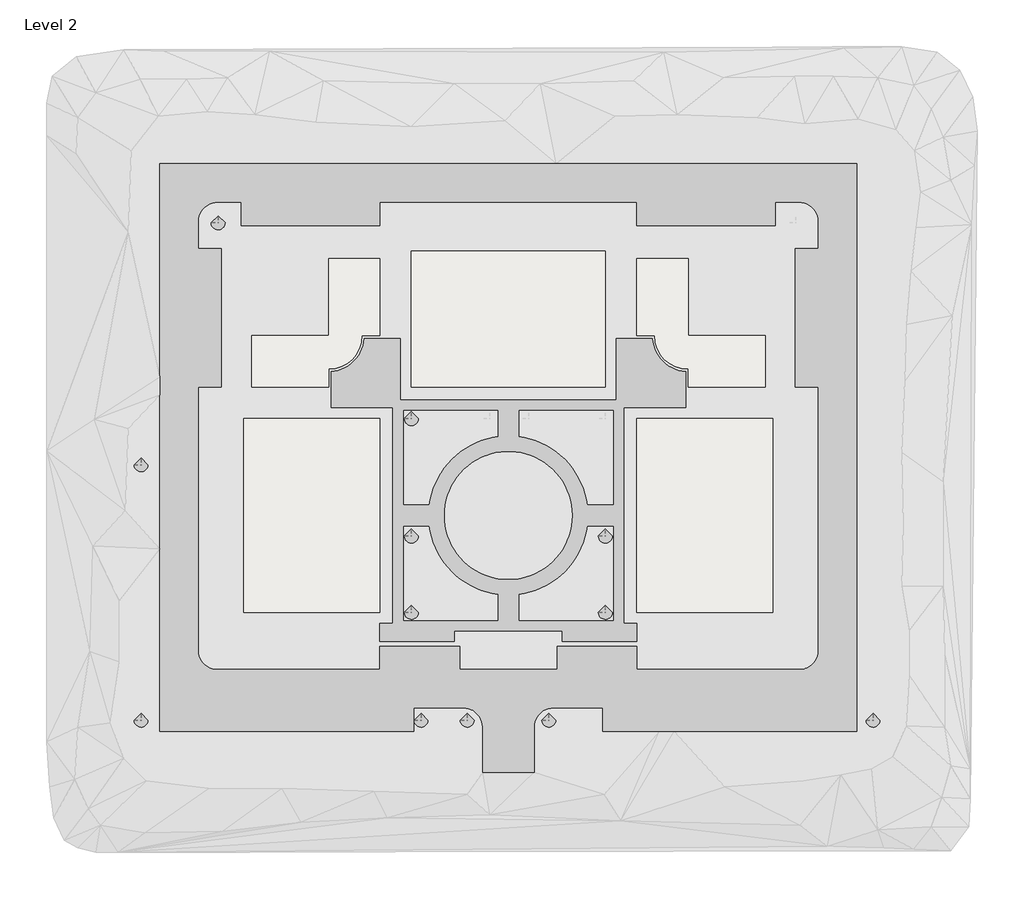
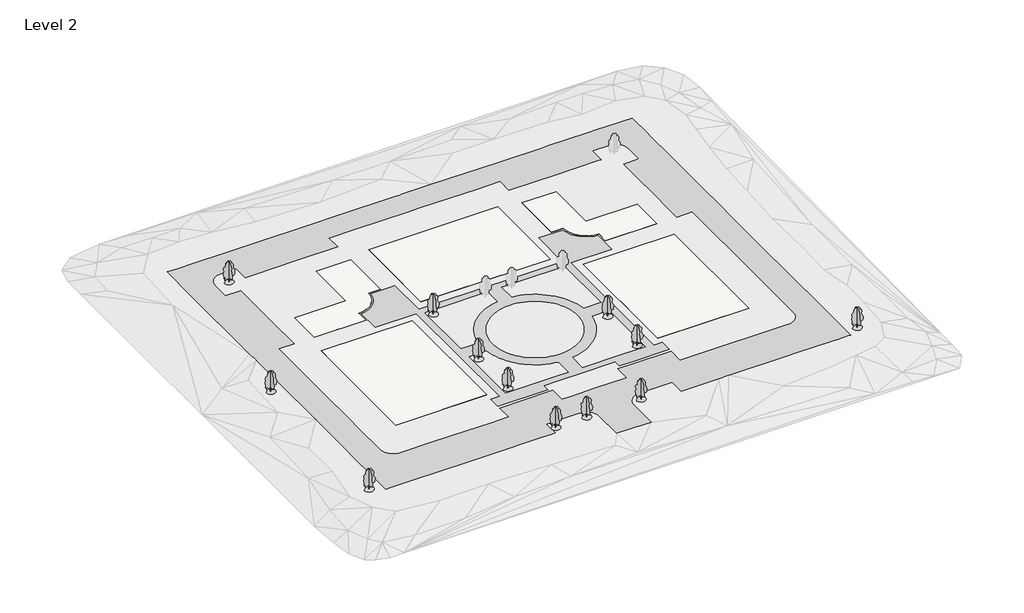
# One storey, part 1 of 2: 12 geographic elements, 5 slabs, 2 proxies.
"""IFC4 building model written with IfcOpenShell, lengths in millimetres."""

from ifc_helpers import new_model, si_unit, point, frame, frame_2d, origin, place, context, project, spatial, polyline, circle_curve, trimmed, segment, composite_curve, outline, extrude, triangles, transform, mapped, element, save
from components import rpc_tree_deciduous_red_ash_25_14781bec

model = new_model("IFC4")

# Units and contexts
model_context = context("Model", 3, world=origin())
ifc_project = project(units=[si_unit("LENGTHUNIT", "METRE", prefix="MILLI")], contexts=[model_context])

# Site, building, storey
site = spatial("IfcSite", under=ifc_project)
building = spatial("IfcBuilding", under=site)
storey = spatial("IfcBuildingStorey", under=building, Name="Level 2", Elevation=3047.9999999)

# Proxies
placement = place(None, origin())
element("IfcBuildingElementProxy", 1, Name="Building Element Proxy", at=placement, inside=storey, context=model_context, shape_type="Tessellation", body=[
    triangles([(-96458.3541504, -141259.5265137, 3048.0), (-96458.3541504, -151927.5265137, 3048.0), (-90362.3541504, -151927.5265137, 3048.0), (-84266.3541504, -151927.5265137, 3048.0), (-84266.3541504, -141259.5265137, 3048.0), (-84219.8174561, -140608.8592529, 3048.0), (-84081.1561523, -139971.4376953, 3048.0), (-83853.1979736, -139360.2470947, 3048.0), (-83540.5658936, -138787.7145996, 3048.0), (-83149.640918, -138265.4953125, 3048.0), (-82688.3853516, -137804.2304443, 3048.0), (-82166.1660645, -137413.3147705, 3048.0), (-81593.6335693, -137100.6826904, 3048.0), (-80982.4429688, -136872.7245117, 3048.0), (-80345.0214111, -136734.0539063, 3048.0), (-79694.3541504, -136687.5265137, 3048.0), (-70630.3399658, -136687.5265137, 3048.0), (-67959.5588013, -136687.5265137, 3048.0), (-67959.5588013, -142173.9265137, 3048.0), (-54593.6723145, -142173.9265137, 3048.0), (-50988.4086548, -142173.9265137, 3048.0), (-30015.5818359, -142173.9265137, 3048.0), (-27380.2333923, -142173.9265137, 3048.0), (-14368.7717834, -142173.9265137, 3048.0), (-12021.3371613, -142173.9265137, 3048.0), (-8520.228772, -142173.9265137, 3048.0), (-7609.1582199, -142173.9265137, 3048.0), (-7609.1582199, -141262.8472412, 3048.0), (-7609.1582199, -135897.4445068, 3048.0), (-7609.1582199, -128757.108252, 3048.0), (-7609.1582199, -119744.5513916, 3048.0), (-7609.1582199, -109311.1696289, 3048.0), (-7609.1582199, -103111.0178467, 3048.0), (-7609.1582199, -88141.7269043, 3048.0), (-7609.1582199, -67102.3320557, 3048.0), (-7609.1582199, -63543.7213623, 3048.0), (-7609.1582199, -48692.6557617, 3048.0), (-7609.1582199, -45786.2285156, 3048.0), (-7609.1582199, -34925.2565735, 3048.0), (-7609.1582199, -29394.9894836, 3048.0), (-7609.1582199, -20175.2708496, 3048.0), (-7609.1582199, -15160.5374084, 3048.0), (-7609.1582199, -9469.011557, 3048.0), (-7609.1582199, -7452.3218628, 3048.0), (-9769.8966797, -7452.3218628, 3048.0), (-13137.2725342, -7452.3218628, 3048.0), (-20332.1054626, -7452.3218628, 3048.0), (-23395.2487244, -7452.3218628, 3048.0), (-37615.0575073, -7452.3218628, 3048.0), (-40375.0099731, -7452.3218628, 3048.0), (-52788.1732178, -7452.3218628, 3048.0), (-55510.2210205, -7452.3218628, 3048.0), (-79028.6831543, -7452.3218628, 3048.0), (-89744.5965088, -7452.3218628, 3048.0), (-90362.3541504, -7452.3218628, 3048.0), (-91818.4420166, -7452.3218628, 3048.0), (-112747.4808105, -7452.3218628, 3048.0), (-121728.1977539, -7452.3218628, 3048.0), (-142112.3953857, -7452.3218628, 3048.0), (-152868.4644287, -7452.3218628, 3048.0), (-163060.4655762, -7452.3218628, 3048.0), (-169916.8098633, -7452.3218628, 3048.0), (-173115.5541504, -7452.3218628, 3048.0), (-173115.5541504, -12340.9792786, 3048.0), (-173115.5541504, -16797.6432953, 3048.0), (-173115.5541504, -19343.470459, 3048.0), (-173115.5541504, -58140.023291, 3048.0), (-173115.5541504, -62355.6543457, 3048.0), (-173115.5541504, -78335.3859375, 3048.0), (-173115.5541504, -96485.831543, 3048.0), (-173115.5541504, -98940.6863525, 3048.0), (-173115.5541504, -118406.8004883, 3048.0), (-173115.5541504, -122301.5302002, 3048.0), (-173115.5541504, -133177.6942383, 3048.0), (-173115.5541504, -139265.5924072, 3048.0), (-173115.5541504, -142173.9265137, 3048.0), (-171062.6189941, -142173.9265137, 3048.0), (-161579.2164551, -142173.9265137, 3048.0), (-155924.3616211, -142173.9265137, 3048.0), (-141364.1619873, -142173.9265137, 3048.0), (-134914.7603027, -142173.9265137, 3048.0), (-118098.4844238, -142173.9265137, 3048.0), (-113948.1331055, -142173.9265137, 3048.0), (-112765.1541504, -142173.9265137, 3048.0), (-112765.1541504, -136687.5265137, 3048.0), (-101809.9809814, -136687.5265137, 3048.0), (-101030.3541504, -136687.5265137, 3048.0), (-100379.6961914, -136734.0539063, 3048.0), (-99742.2746338, -136872.7245117, 3048.0), (-99131.0840332, -137100.6826904, 3048.0), (-98978.0329102, -137184.2496826, 3048.0), (-98558.5515381, -137413.3147705, 3048.0), (-98036.332251, -137804.2304443, 3048.0), (-97575.0673828, -138265.4953125, 3048.0), (-97184.1424072, -138787.7145996, 3048.0), (-96871.5196289, -139360.2470947, 3048.0), (-96643.5521484, -139971.4376953, 3048.0), (-96504.8908447, -140608.8592529, 3048.0), (-120842.3541504, -16596.3218628, 3048.0), (-111973.5931641, -16596.3218628, 3048.0), (-92323.0716797, -16596.3218628, 3048.0), (-88392.1767334, -16596.3218628, 3048.0), (-68080.4816528, -16596.3218628, 3048.0), (-59882.3588013, -16596.3218628, 3048.0), (-59882.3588013, -22082.7218628, 3048.0), (-43016.1185303, -22082.7218628, 3048.0), (-36760.488739, -22082.7218628, 3048.0), (-27869.6965393, -22082.7218628, 3048.0), (-26963.9588013, -22082.7218628, 3048.0), (-26963.9588013, -17204.3033569, 3048.0), (-26963.9588013, -16596.3218628, 3048.0), (-21325.1588013, -16596.3218628, 3048.0), (-20674.493866, -16642.8585571, 3048.0), (-20037.0769592, -16781.5198608, 3048.0), (-19425.880545, -17009.4838531, 3048.0), (-18853.3480499, -17322.1112823, 3048.0), (-18331.1345764, -17713.0350952, 3048.0), (-17869.870871, -18174.2988007, 3048.0), (-17478.9470581, -18696.5122742, 3048.0), (-17166.3207916, -19269.0447693, 3048.0), (-16938.3556366, -19880.2400208, 3048.0), (-16799.6943329, -20517.6592529, 3048.0), (-16753.1576385, -21168.3218628, 3048.0), (-16753.1576385, -26553.1513184, 3048.0), (-16753.1576385, -27569.1218628, 3048.0), (-22239.5588013, -27569.1218628, 3048.0), (-22239.5588013, -28669.615155, 3048.0), (-22239.5588013, -35337.7267456, 3048.0), (-22239.5588013, -46411.753125, 3048.0), (-22239.5588013, -54882.9383789, 3048.0), (-22239.5588013, -60487.5218628, 3048.0), (-16753.1576385, -60487.5218628, 3048.0), (-16753.1576385, -98657.3269043, 3048.0), (-16753.1576385, -111345.1664063, 3048.0), (-16753.1576385, -122722.3696289, 3048.0), (-16753.1576385, -122971.5265137, 3048.0), (-16799.6943329, -123622.1844727, 3048.0), (-16938.3556366, -124259.6060303, 3048.0), (-17166.3207916, -124870.7966309, 3048.0), (-17478.9470581, -125443.329126, 3048.0), (-17869.870871, -125965.5484131, 3048.0), (-18331.1345764, -126426.8132813, 3048.0), (-18853.3480499, -126817.7289551, 3048.0), (-19425.880545, -127130.3610352, 3048.0), (-19872.0754028, -127296.7787842, 3048.0), (-20037.0769592, -127358.3192139, 3048.0), (-20674.493866, -127496.9898193, 3048.0), (-21325.1588013, -127543.5265137, 3048.0), (-34741.3910522, -127543.5265137, 3048.0), (-41871.5883911, -127543.5265137, 3048.0), (-59882.3588013, -127543.5265137, 3048.0), (-59882.3588013, -122057.1265137, 3048.0), (-72794.2171875, -122057.1265137, 3048.0), (-78779.9541504, -122057.1265137, 3048.0), (-78779.9541504, -127543.5265137, 3048.0), (-90362.3541504, -127543.5265137, 3048.0), (-98445.9909668, -127543.5265137, 3048.0), (-101944.7541504, -127543.5265137, 3048.0), (-101944.7541504, -122057.1265137, 3048.0), (-103048.1844727, -122057.1265137, 3048.0), (-120842.3541504, -122057.1265137, 3048.0), (-120842.3541504, -127543.5265137, 3048.0), (-127508.0124023, -127543.5265137, 3048.0), (-135716.2462646, -127543.5265137, 3048.0), (-147842.1479736, -127543.5265137, 3048.0), (-159399.5541504, -127543.5265137, 3048.0), (-160050.2307129, -127496.9898193, 3048.0), (-160687.6429688, -127358.3192139, 3048.0), (-161298.8428711, -127130.3610352, 3048.0), (-161871.3660645, -126817.7289551, 3048.0), (-162393.5853516, -126426.8132813, 3048.0), (-162854.840918, -125965.5484131, 3048.0), (-163245.7751953, -125443.329126, 3048.0), (-163558.3886719, -124870.7966309, 3048.0), (-163786.3561523, -124259.6060303, 3048.0), (-163925.0267578, -123622.1844727, 3048.0), (-163971.5541504, -122971.5265137, 3048.0), (-163971.5541504, -109289.2825928, 3048.0), (-163971.5541504, -104079.330835, 3048.0), (-163971.5541504, -88201.2767578, 3048.0), (-163971.5541504, -60487.5218628, 3048.0), (-158485.1541504, -60487.5218628, 3048.0), (-158485.1541504, -46724.2270752, 3048.0), (-158485.1541504, -34220.483313, 3048.0), (-158485.1541504, -27569.1218628, 3048.0), (-163971.5541504, -27569.1218628, 3048.0), (-163971.5541504, -21168.3218628, 3048.0), (-163925.0267578, -20517.6592529, 3048.0), (-163786.3561523, -19880.2400208, 3048.0), (-163558.3886719, -19269.0447693, 3048.0), (-163245.7751953, -18696.5122742, 3048.0), (-162854.840918, -18174.2988007, 3048.0), (-162393.5853516, -17713.0350952, 3048.0), (-161871.3660645, -17322.1112823, 3048.0), (-161298.8428711, -17009.4838531, 3048.0), (-160687.6429688, -16781.5198608, 3048.0), (-160050.2307129, -16642.8585571, 3048.0), (-159399.5541504, -16596.3218628, 3048.0), (-153760.7541504, -16596.3218628, 3048.0), (-153760.7541504, -22082.7218628, 3048.0), (-151061.086377, -22082.7218628, 3048.0), (-135421.6781982, -22082.7218628, 3048.0), (-120842.3541504, -22082.7218628, 3048.0)], [[75, 76, 77], [75, 77, 78], [78, 74, 75], [169, 74, 78], [167, 78, 166], [78, 79, 166], [165, 79, 80], [164, 80, 81], [164, 165, 80], [163, 164, 81], [163, 82, 162], [79, 165, 166], [174, 175, 73], [174, 73, 74], [73, 176, 177], [176, 73, 175], [72, 73, 177], [74, 173, 174], [167, 168, 78], [173, 74, 172], [171, 74, 170], [74, 171, 172], [168, 169, 78], [74, 169, 170], [163, 81, 82], [85, 83, 84], [85, 82, 83], [9, 156, 95], [156, 94, 95], [1, 2, 3], [5, 3, 4], [1, 3, 5], [6, 98, 1], [7, 97, 98], [97, 8, 96], [95, 96, 9], [85, 86, 158], [162, 160, 161], [158, 86, 87], [158, 87, 88], [158, 160, 162], [88, 157, 158], [162, 85, 158], [92, 93, 157], [91, 92, 157], [89, 90, 157], [157, 90, 91], [93, 156, 157], [89, 157, 88], [93, 94, 156], [85, 162, 82], [71, 72, 178], [70, 71, 179], [68, 69, 181], [67, 68, 181], [70, 180, 69], [179, 180, 70], [69, 180, 181], [67, 186, 66], [186, 67, 183], [183, 67, 181], [178, 179, 71], [177, 178, 72], [66, 186, 187], [189, 65, 66], [188, 66, 187], [64, 65, 192], [63, 64, 62], [193, 62, 64], [188, 189, 66], [192, 65, 191], [191, 65, 190], [62, 193, 61], [64, 192, 193], [193, 194, 61], [61, 194, 195], [190, 65, 189], [186, 184, 185], [198, 61, 197], [197, 61, 196], [186, 183, 184], [159, 160, 158], [59, 201, 202], [199, 200, 201], [181, 182, 183], [99, 202, 203], [99, 58, 202], [201, 59, 199], [198, 199, 60], [59, 60, 199], [59, 202, 58], [99, 57, 58], [60, 61, 198], [56, 100, 101], [55, 101, 102], [56, 57, 100], [54, 55, 102], [56, 101, 55], [102, 53, 54], [100, 57, 99], [196, 61, 195], [6, 1, 5], [97, 7, 8], [156, 10, 11], [10, 156, 9], [9, 96, 8], [20, 18, 19], [21, 151, 20], [13, 156, 12], [21, 22, 150], [12, 156, 11], [14, 15, 155], [13, 14, 155], [155, 16, 17], [154, 155, 153], [155, 15, 16], [156, 13, 155], [153, 17, 18], [150, 22, 149], [21, 150, 151], [152, 153, 151], [151, 18, 20], [153, 18, 151], [17, 153, 155], [22, 23, 149], [148, 24, 147], [146, 147, 24], [24, 145, 146], [24, 144, 145], [148, 23, 24], [28, 25, 26], [28, 26, 27], [29, 144, 24], [143, 144, 29], [29, 24, 25], [25, 28, 29], [142, 29, 30], [143, 29, 142], [142, 30, 141], [140, 30, 139], [139, 30, 138], [30, 140, 141], [136, 137, 31], [135, 136, 31], [33, 134, 32], [31, 32, 134], [134, 135, 31], [138, 30, 137], [137, 30, 31], [148, 149, 23], [134, 33, 133], [50, 106, 107], [104, 105, 106], [108, 109, 110], [108, 110, 107], [110, 111, 107], [128, 129, 38], [125, 127, 128], [127, 125, 126], [37, 129, 130], [52, 53, 103], [52, 103, 104], [51, 52, 104], [51, 104, 106], [50, 51, 106], [107, 111, 49], [113, 114, 47], [49, 111, 48], [112, 47, 48], [47, 112, 113], [111, 112, 48], [114, 115, 47], [49, 50, 107], [130, 131, 132], [53, 102, 103], [39, 128, 38], [124, 125, 40], [130, 132, 37], [124, 41, 123], [41, 122, 123], [132, 34, 35], [35, 36, 132], [38, 129, 37], [39, 40, 125], [39, 125, 128], [36, 37, 132], [133, 33, 34], [40, 41, 124], [119, 120, 42], [118, 119, 42], [116, 117, 46], [115, 116, 46], [118, 46, 117], [41, 42, 120], [41, 121, 122], [42, 46, 118], [45, 46, 43], [43, 44, 45], [46, 42, 43], [120, 121, 41], [115, 46, 47], [133, 34, 132], [7, 98, 6]], closed=False),
])
element("IfcBuildingElementProxy", 2, Name="Building Element Proxy", at=placement, inside=storey, context=model_context, shape_type="Tessellation", body=[
    triangles([(-115965.5541504, -63535.5218628, 3048.0), (-115965.5541504, -48905.1218628, 3048.0), (-124521.7574707, -48905.1218628, 3048.0), (-124628.057959, -49768.622644, 3048.0), (-124821.7112549, -50616.8173828, 3048.0), (-125100.7174805, -51440.8880127, 3048.0), (-125462.1744873, -52232.2676147, 3048.0), (-125902.3150635, -52982.7380859, 3048.0), (-126416.5813477, -53684.4999023, 3048.0), (-126999.6248291, -54330.255835, 3048.0), (-127645.3807617, -54913.2946655, 3048.0), (-128347.1425781, -55427.5609497, 3048.0), (-129097.6083984, -55867.7061768, 3048.0), (-129888.9926514, -56229.1631836, 3048.0), (-130713.0632813, -56508.1694092, 3048.0), (-131561.2533691, -56701.827356, 3048.0), (-132424.7541504, -56808.1231934, 3048.0), (-132424.7541504, -65364.3218628, 3048.0), (-117794.3541504, -65364.3218628, 3048.0), (-117794.3541504, -116570.7265137, 3048.0), (-120842.3541504, -116570.7265137, 3048.0), (-120842.3541504, -120837.9265137, 3048.0), (-103163.9541504, -120837.9265137, 3048.0), (-103163.9541504, -120689.163501, 3048.0), (-103163.9541504, -118399.5265137, 3048.0), (-97941.352002, -118399.5265137, 3048.0), (-90362.3541504, -118399.5265137, 3048.0), (-77560.7588013, -118399.5265137, 3048.0), (-77560.7588013, -120837.9265137, 3048.0), (-72974.5410645, -120837.9265137, 3048.0), (-59882.3588013, -120837.9265137, 3048.0), (-59882.3588013, -116570.7265137, 3048.0), (-62930.3588013, -116570.7265137, 3048.0), (-62930.3588013, -65364.3218628, 3048.0), (-48299.9588013, -65364.3218628, 3048.0), (-48299.9588013, -56808.1231934, 3048.0), (-49163.4595825, -56701.827356, 3048.0), (-50011.6543213, -56508.1694092, 3048.0), (-50835.7249512, -56229.1631836, 3048.0), (-51627.1045532, -55867.7061768, 3048.0), (-52377.5750244, -55427.5609497, 3048.0), (-53079.3368408, -54913.2946655, 3048.0), (-53725.0881226, -54330.255835, 3048.0), (-54308.131604, -53684.4999023, 3048.0), (-54822.3978882, -52982.7380859, 3048.0), (-55262.5431152, -52232.2676147, 3048.0), (-55624.0001221, -51440.8880127, 3048.0), (-55903.0063477, -50616.8173828, 3048.0), (-56096.6642944, -49768.622644, 3048.0), (-56202.9601318, -48905.1218628, 3048.0), (-64759.1588013, -48905.1218628, 3048.0), (-64759.1588013, -63535.5218628, 3048.0), (-81449.735376, -63535.5218628, 3048.0), (-94913.5368164, -63535.5218628, 3048.0), (-108001.017041, -63535.5218628, 3048.0), (-92800.7541504, -65973.9218628, 3048.0), (-92800.7541504, -72227.8982666, 3048.0), (-94158.9968262, -72455.2332275, 3048.0), (-95422.7708496, -72762.7958496, 3048.0), (-95497.073291, -72780.8784668, 3048.0), (-96807.877002, -73203.1038574, 3048.0), (-98084.4595459, -73719.6676758, 3048.0), (-99320.0213379, -74327.8259033, 3048.0), (-100508.0232422, -75024.3508301, 3048.0), (-101642.1493652, -75805.5403564, 3048.0), (-102716.3628662, -76667.2505493, 3048.0), (-103724.9803711, -77604.900293, 3048.0), (-104662.6254639, -78613.5177979, 3048.0), (-105524.3403076, -79687.7312988, 3048.0), (-106305.529834, -80821.8574219, 3048.0), (-106508.6988281, -81168.3851074, 3048.0), (-107002.0547607, -82009.8500244, 3048.0), (-107610.2129883, -83245.4211182, 3048.0), (-108126.7768066, -84522.0036621, 3048.0), (-108549.0021973, -85832.807373, 3048.0), (-108874.6474365, -87170.8838379, 3048.0), (-109101.9823975, -88529.1265137, 3048.0), (-115355.9541504, -88529.1265137, 3048.0), (-115355.9541504, -65973.9218628, 3048.0), (-107794.6482422, -65973.9218628, 3048.0), (-95048.1053467, -65973.9218628, 3048.0), (-92800.7541504, -115961.1265137, 3048.0), (-97806.7834717, -115961.1265137, 3048.0), (-103564.1064697, -115961.1265137, 3048.0), (-115355.9541504, -115961.1265137, 3048.0), (-115355.9541504, -93405.9265137, 3048.0), (-109101.9823975, -93405.9265137, 3048.0), (-108874.6474365, -94764.1598877, 3048.0), (-108549.0021973, -96102.2363525, 3048.0), (-108126.7768066, -97413.0400635, 3048.0), (-107610.2129883, -98689.6226074, 3048.0), (-107002.0547607, -99925.1937012, 3048.0), (-106305.529834, -101113.1863037, 3048.0), (-105524.3403076, -102247.3124268, 3048.0), (-104662.6254639, -103321.5259277, 3048.0), (-104630.9436768, -103355.6168701, 3048.0), (-103724.9803711, -104330.1434326, 3048.0), (-102716.3628662, -105267.7978271, 3048.0), (-101642.1493652, -106129.5033691, 3048.0), (-100508.0232422, -106910.6928955, 3048.0), (-99320.0213379, -107607.2178223, 3048.0), (-98084.4595459, -108215.3760498, 3048.0), (-97394.7156006, -108494.475293, 3048.0), (-96807.877002, -108731.9398682, 3048.0), (-95497.073291, -109154.1652588, 3048.0), (-94158.9968262, -109479.810498, 3048.0), (-92800.7541504, -109707.145459, 3048.0), (-105602.3541504, -90967.5265137, 3048.0), (-105552.9432129, -89741.2106689, 3048.0), (-105405.0080566, -88522.8571289, 3048.0), (-105159.5067627, -87320.3537842, 3048.0), (-104818.0578369, -86141.5048096, 3048.0), (-104382.8471924, -84993.9469482, 3048.0), (-103856.7118652, -83885.14021, 3048.0), (-103243.0562988, -82822.2655518, 3048.0), (-102545.8616455, -81812.2062744, 3048.0), (-101769.6578613, -80861.5294189, 3048.0), (-100919.4771973, -79976.392749, 3048.0), (-100000.8262939, -79162.544751, 3048.0), (-99019.6675781, -78425.2502197, 3048.0), (-97982.3541504, -77769.2949097, 3048.0), (-96895.6297852, -77198.9390259, 3048.0), (-95766.5359131, -76717.8753662, 3048.0), (-95638.683252, -76675.1895996, 3048.0), (-94602.3930176, -76329.2246704, 3048.0), (-93410.754126, -76035.5123657, 3048.0), (-92199.3396973, -75838.6406616, 3048.0), (-90976.0097168, -75739.879248, 3048.0), (-89748.7078857, -75739.879248, 3048.0), (-88525.3779053, -75838.6406616, 3048.0), (-87313.9634766, -76035.5123657, 3048.0), (-86122.324585, -76329.2246704, 3048.0), (-84958.1816895, -76717.8753662, 3048.0), (-83829.0878174, -77198.9390259, 3048.0), (-82742.3541504, -77769.2949097, 3048.0), (-81705.0500244, -78425.2502197, 3048.0), (-80723.8913086, -79162.544751, 3048.0), (-79805.2404053, -79976.392749, 3048.0), (-78955.0504395, -80861.5294189, 3048.0), (-78872.1438721, -80963.076709, 3048.0), (-78178.8466553, -81812.2062744, 3048.0), (-77481.6613037, -82822.2655518, 3048.0), (-76868.0103882, -83885.14021, 3048.0), (-76341.8704102, -84993.9469482, 3048.0), (-75906.6644165, -86141.5048096, 3048.0), (-75565.206189, -87320.3537842, 3048.0), (-75319.7141968, -88522.8571289, 3048.0), (-75171.7743896, -89741.2106689, 3048.0), (-75122.3588013, -90967.5265137, 3048.0), (-75171.7743896, -92193.8330566, 3048.0), (-75319.7141968, -93412.1865967, 3048.0), (-75565.206189, -94614.6899414, 3048.0), (-75906.6644165, -95793.538916, 3048.0), (-76341.8704102, -96941.0967773, 3048.0), (-76469.2486816, -97209.5362061, 3048.0), (-76868.0103882, -98049.9035156, 3048.0), (-77481.6613037, -99112.7781738, 3048.0), (-78178.8466553, -100122.8374512, 3048.0), (-78955.0504395, -101073.5143066, 3048.0), (-79805.2404053, -101958.6509766, 3048.0), (-80723.8913086, -102772.4989746, 3048.0), (-81705.0500244, -103509.7935059, 3048.0), (-82742.3541504, -104165.7534668, 3048.0), (-83829.0878174, -104736.1093506, 3048.0), (-84958.1816895, -105217.1683594, 3048.0), (-86122.324585, -105605.8144043, 3048.0), (-87313.9634766, -105899.5360107, 3048.0), (-88525.3779053, -106096.4077148, 3048.0), (-89748.7078857, -106195.1644775, 3048.0), (-90976.0097168, -106195.1644775, 3048.0), (-92199.3396973, -106096.4077148, 3048.0), (-93410.754126, -105899.5360107, 3048.0), (-94602.3930176, -105605.8144043, 3048.0), (-95766.5359131, -105217.1683594, 3048.0), (-96895.6297852, -104736.1093506, 3048.0), (-97179.0915527, -104587.3370361, 3048.0), (-97982.3541504, -104165.7534668, 3048.0), (-99019.6675781, -103509.7935059, 3048.0), (-100000.8262939, -102772.4989746, 3048.0), (-100919.4771973, -101958.6509766, 3048.0), (-101769.6578613, -101073.5143066, 3048.0), (-102545.8616455, -100122.8374512, 3048.0), (-103243.0562988, -99112.7781738, 3048.0), (-103856.7118652, -98049.9035156, 3048.0), (-104382.8471924, -96941.0967773, 3048.0), (-104818.0578369, -95793.538916, 3048.0), (-105159.5067627, -94614.6899414, 3048.0), (-105405.0080566, -93412.1865967, 3048.0), (-105552.9432129, -92193.8330566, 3048.0), (-87923.9541504, -65973.9218628, 3048.0), (-81089.0876221, -65973.9218628, 3048.0), (-65368.7588013, -65973.9218628, 3048.0), (-65368.7588013, -88529.1265137, 3048.0), (-71622.7352051, -88529.1265137, 3048.0), (-71850.070166, -87170.8838379, 3048.0), (-72175.7154053, -85832.807373, 3048.0), (-72597.9407959, -84522.0036621, 3048.0), (-73114.5046143, -83245.4211182, 3048.0), (-73722.6628418, -82009.8500244, 3048.0), (-74419.1877686, -80821.8574219, 3048.0), (-75200.3772949, -79687.7312988, 3048.0), (-76062.0874878, -78613.5177979, 3048.0), (-76999.7372314, -77604.900293, 3048.0), (-78008.3500854, -76667.2505493, 3048.0), (-79082.5682373, -75805.5403564, 3048.0), (-79697.6190674, -75381.8917969, 3048.0), (-80216.6943604, -75024.3508301, 3048.0), (-81404.6869629, -74327.8259033, 3048.0), (-82640.2580566, -73719.6676758, 3048.0), (-83916.8406006, -73203.1038574, 3048.0), (-85227.6443115, -72780.8784668, 3048.0), (-86565.7207764, -72455.2332275, 3048.0), (-87923.9541504, -72227.8982666, 3048.0), (-87923.9541504, -115961.1265137, 3048.0), (-87923.9541504, -109707.145459, 3048.0), (-86565.7207764, -109479.810498, 3048.0), (-85227.6443115, -109154.1652588, 3048.0), (-83916.8406006, -108731.9398682, 3048.0), (-82640.2580566, -108215.3760498, 3048.0), (-81404.6869629, -107607.2178223, 3048.0), (-80216.6943604, -106910.6928955, 3048.0), (-79082.5682373, -106129.5033691, 3048.0), (-78008.3500854, -105267.7978271, 3048.0), (-76999.7372314, -104330.1434326, 3048.0), (-76062.0874878, -103321.5259277, 3048.0), (-75642.6107666, -102798.599707, 3048.0), (-75200.3772949, -102247.3124268, 3048.0), (-74419.1877686, -101113.1863037, 3048.0), (-73722.6628418, -99925.1937012, 3048.0), (-73114.5046143, -98689.6226074, 3048.0), (-72597.9407959, -97413.0400635, 3048.0), (-72175.7154053, -96102.2363525, 3048.0), (-71850.070166, -94764.1598877, 3048.0), (-71622.7352051, -93405.9265137, 3048.0), (-65368.7588013, -93405.9265137, 3048.0), (-65368.7588013, -115961.1265137, 3048.0), (-73695.8365723, -115961.1265137, 3048.0)], [[22, 20, 21], [20, 22, 85], [85, 86, 20], [19, 20, 86], [90, 91, 185], [184, 91, 92], [22, 23, 85], [181, 95, 96], [182, 94, 95], [183, 92, 93], [185, 91, 184], [183, 93, 94], [183, 184, 92], [96, 97, 181], [90, 185, 186], [188, 87, 88], [78, 87, 77], [87, 78, 86], [110, 76, 77], [108, 77, 87], [88, 89, 187], [188, 189, 87], [186, 187, 89], [188, 88, 187], [108, 109, 77], [110, 111, 76], [109, 110, 77], [189, 108, 87], [89, 90, 186], [76, 111, 75], [86, 78, 19], [84, 25, 83], [25, 84, 85], [25, 85, 24], [177, 100, 101], [102, 176, 101], [24, 85, 23], [26, 83, 25], [83, 26, 82], [171, 107, 170], [26, 27, 82], [174, 103, 104], [173, 104, 105], [106, 172, 105], [175, 102, 103], [107, 172, 106], [98, 99, 179], [179, 99, 178], [98, 179, 180], [183, 94, 182], [181, 97, 180], [95, 181, 182], [180, 97, 98], [175, 103, 174], [173, 105, 172], [104, 173, 174], [178, 99, 100], [178, 100, 177], [176, 177, 101], [176, 102, 175], [107, 171, 172], [107, 82, 215], [19, 78, 79], [113, 73, 74], [1, 79, 55], [16, 17, 18], [13, 18, 19], [1, 19, 79], [1, 10, 19], [72, 114, 71], [114, 72, 73], [54, 55, 80], [55, 79, 80], [115, 69, 70], [70, 71, 115], [112, 74, 75], [15, 16, 18], [14, 15, 18], [13, 19, 12], [11, 19, 10], [19, 11, 12], [14, 18, 13], [9, 1, 8], [6, 7, 2], [1, 7, 8], [4, 5, 2], [2, 3, 4], [5, 6, 2], [10, 1, 9], [7, 1, 2], [115, 71, 114], [114, 73, 113], [117, 67, 68], [116, 68, 69], [115, 116, 69], [117, 68, 116], [113, 74, 112], [117, 118, 67], [66, 118, 119], [67, 118, 66], [64, 120, 121], [62, 122, 123], [63, 121, 122], [65, 119, 120], [61, 123, 124], [120, 64, 65], [64, 121, 63], [63, 122, 62], [62, 123, 61], [61, 125, 60], [65, 66, 119], [59, 125, 126], [125, 59, 60], [58, 126, 57], [126, 58, 59], [54, 80, 81], [54, 81, 56], [213, 56, 57], [54, 56, 190], [57, 126, 127], [125, 61, 124], [75, 111, 112], [214, 215, 82], [169, 107, 215], [107, 169, 170], [167, 215, 216], [169, 215, 168], [217, 167, 216], [82, 27, 214], [214, 28, 237], [214, 27, 28], [219, 220, 164], [220, 221, 163], [219, 165, 218], [217, 218, 166], [222, 162, 221], [168, 215, 167], [167, 217, 166], [165, 219, 164], [163, 221, 162], [220, 163, 164], [218, 165, 166], [160, 161, 223], [223, 224, 160], [162, 222, 161], [160, 224, 159], [226, 158, 159], [229, 156, 157], [157, 158, 227], [224, 225, 159], [222, 223, 161], [28, 29, 30], [228, 157, 227], [227, 158, 226], [230, 154, 155], [230, 156, 229], [228, 229, 157], [155, 156, 230], [226, 159, 225], [236, 31, 33], [31, 236, 30], [31, 32, 33], [237, 30, 236], [230, 231, 154], [236, 33, 235], [28, 30, 237], [154, 231, 153], [152, 153, 232], [151, 152, 233], [146, 147, 195], [147, 148, 194], [151, 234, 150], [233, 234, 151], [234, 235, 193], [150, 234, 149], [194, 148, 149], [147, 194, 195], [194, 149, 234], [234, 193, 194], [33, 34, 235], [233, 152, 232], [153, 231, 232], [146, 195, 196], [207, 135, 136], [208, 134, 135], [210, 132, 133], [211, 131, 132], [133, 134, 209], [202, 203, 139], [202, 140, 141], [140, 202, 139], [137, 138, 204], [203, 204, 138], [138, 139, 203], [136, 137, 205], [141, 142, 201], [137, 204, 205], [129, 130, 213], [129, 213, 57], [56, 213, 190], [213, 130, 131], [212, 213, 131], [211, 212, 131], [128, 129, 57], [134, 208, 209], [207, 208, 135], [210, 133, 209], [132, 210, 211], [53, 190, 191], [191, 192, 53], [136, 206, 207], [136, 205, 206], [57, 127, 128], [198, 143, 144], [199, 143, 198], [141, 201, 202], [201, 142, 200], [200, 142, 199], [144, 145, 197], [143, 199, 142], [198, 144, 197], [145, 196, 197], [52, 53, 192], [43, 52, 34], [34, 52, 192], [34, 35, 40], [192, 193, 34], [36, 37, 35], [34, 193, 235], [145, 146, 196], [46, 47, 51], [46, 51, 52], [50, 51, 49], [48, 49, 51], [51, 47, 48], [52, 45, 46], [39, 40, 35], [37, 38, 35], [39, 35, 38], [45, 52, 44], [43, 34, 42], [52, 43, 44], [42, 34, 41], [34, 40, 41], [53, 54, 190]], closed=False),
])

# Geographic elements
rpc_tree_deciduous_red_ash_25_shape = rpc_tree_deciduous_red_ash_25_14781bec(model_context)
element("IfcGeographicElement", 3, ObjectType="RPC Tree - Deciduous : Red Ash - 25'", at=placement, inside=storey, context=model_context, shape_type="MappedRepresentation", body=[
    mapped(rpc_tree_deciduous_red_ash_25_shape, transform((-113374.758026, -67955.1218987, 3048.0), x_axis=(1.0, 0.0, 0.0), y_axis=(0.0, 1.0, 0.0), z_axis=(0.0, 0.0, 1.0))),
])
element("IfcGeographicElement", 4, ObjectType="RPC Tree - Deciduous : Red Ash - 25'", at=placement, inside=storey, context=model_context, shape_type="MappedRepresentation", body=[
    mapped(rpc_tree_deciduous_red_ash_25_shape, transform((-113374.758026, -95844.3218987, 3048.0), x_axis=(1.0, 0.0, 0.0), y_axis=(0.0, 1.0, 0.0), z_axis=(0.0, 0.0, 1.0))),
])
element("IfcGeographicElement", 5, ObjectType="RPC Tree - Deciduous : Red Ash - 25'", at=placement, inside=storey, context=model_context, shape_type="MappedRepresentation", body=[
    mapped(rpc_tree_deciduous_red_ash_25_shape, transform((-67349.958026, -95844.3218987, 3048.0), x_axis=(1.0, 0.0, 0.0), y_axis=(0.0, 1.0, 0.0), z_axis=(0.0, 0.0, 1.0))),
])
element("IfcGeographicElement", 6, ObjectType="RPC Tree - Deciduous : Red Ash - 25'", at=placement, inside=storey, context=model_context, shape_type="MappedRepresentation", body=[
    mapped(rpc_tree_deciduous_red_ash_25_shape, transform((-113374.758026, -113979.9218987, 3048.0), x_axis=(1.0, 0.0, 0.0), y_axis=(0.0, 1.0, 0.0), z_axis=(0.0, 0.0, 1.0))),
])
element("IfcGeographicElement", 7, ObjectType="RPC Tree - Deciduous : Red Ash - 25'", at=placement, inside=storey, context=model_context, shape_type="MappedRepresentation", body=[
    mapped(rpc_tree_deciduous_red_ash_25_shape, transform((-67349.958026, -113979.9218987, 3048.0), x_axis=(1.0, 0.0, 0.0), y_axis=(0.0, 1.0, 0.0), z_axis=(0.0, 0.0, 1.0))),
])
element("IfcGeographicElement", 8, ObjectType="RPC Tree - Deciduous : Red Ash - 25'", at=placement, inside=storey, context=model_context, shape_type="MappedRepresentation", body=[
    mapped(rpc_tree_deciduous_red_ash_25_shape, transform((-111088.758026, -139583.1218987, 3048.0), x_axis=(1.0, 0.0, 0.0), y_axis=(0.0, 1.0, 0.0), z_axis=(0.0, 0.0, 1.0))),
])
element("IfcGeographicElement", 9, ObjectType="RPC Tree - Deciduous : Red Ash - 25'", at=placement, inside=storey, context=model_context, shape_type="MappedRepresentation", body=[
    mapped(rpc_tree_deciduous_red_ash_25_shape, transform((-100115.958026, -139583.1218987, 3048.0), x_axis=(1.0, 0.0, 0.0), y_axis=(0.0, 1.0, 0.0), z_axis=(0.0, 0.0, 1.0))),
])
element("IfcGeographicElement", 10, ObjectType="RPC Tree - Deciduous : Red Ash - 25'", at=placement, inside=storey, context=model_context, shape_type="MappedRepresentation", body=[
    mapped(rpc_tree_deciduous_red_ash_25_shape, transform((-80761.158026, -139583.1218987, 3048.0), x_axis=(1.0, 0.0, 0.0), y_axis=(0.0, 1.0, 0.0), z_axis=(0.0, 0.0, 1.0))),
])
element("IfcGeographicElement", 11, ObjectType="RPC Tree - Deciduous : Red Ash - 25'", at=placement, inside=storey, context=model_context, shape_type="MappedRepresentation", body=[
    mapped(rpc_tree_deciduous_red_ash_25_shape, transform((-177535.158026, -139583.1218987, 3048.0), x_axis=(1.0, 0.0, 0.0), y_axis=(0.0, 1.0, 0.0), z_axis=(0.0, 0.0, 1.0))),
])
element("IfcGeographicElement", 12, ObjectType="RPC Tree - Deciduous : Red Ash - 25'", at=placement, inside=storey, context=model_context, shape_type="MappedRepresentation", body=[
    mapped(rpc_tree_deciduous_red_ash_25_shape, transform((-177535.158026, -78927.9218987, 3048.0), x_axis=(1.0, 0.0, 0.0), y_axis=(0.0, 1.0, 0.0), z_axis=(0.0, 0.0, 1.0))),
])
element("IfcGeographicElement", 13, ObjectType="RPC Tree - Deciduous : Red Ash - 25'", at=placement, inside=storey, context=model_context, shape_type="MappedRepresentation", body=[
    mapped(rpc_tree_deciduous_red_ash_25_shape, transform((-159247.158026, -21473.1218987, 3048.0), x_axis=(1.0, 0.0, 0.0), y_axis=(0.0, 1.0, 0.0), z_axis=(0.0, 0.0, 1.0))),
])
element("IfcGeographicElement", 14, ObjectType="RPC Tree - Deciduous : Red Ash - 25'", at=placement, inside=storey, context=model_context, shape_type="MappedRepresentation", body=[
    mapped(rpc_tree_deciduous_red_ash_25_shape, transform((-3799.158026, -139583.1218987, 3048.0), x_axis=(1.0, 0.0, 0.0), y_axis=(0.0, 1.0, 0.0), z_axis=(0.0, 0.0, 1.0))),
])

# Slabs
element("IfcSlab", 15, ObjectType="Pad 1", at=placement, inside=storey, context=model_context, shape_type="SweptSolid", body=[
    extrude(outline(polyline([(-153151.158026, -67955.1218987), (-120842.358026, -67955.1218987), (-120842.358026, -113979.9218987), (-153151.158026, -113979.9218987), (-153151.158026, -67955.1218987)])), frame((0.0, 0.0, 2743.2), z_axis=(0.0, 0.0, 1.0), x_axis=(1.0, 0.0, 0.0)), (0.0, 0.0, 1.0), 304.8),
])
element("IfcSlab", 16, ObjectType="Pad 1", at=placement, inside=storey, context=model_context, shape_type="SweptSolid", body=[
    extrude(outline(polyline([(-67349.958026, -28178.7218987), (-67349.958026, -60487.5218987), (-113374.758026, -60487.5218987), (-113374.758026, -28178.7218987), (-67349.958026, -28178.7218987)])), frame((0.0, 0.0, 2743.2), z_axis=(0.0, 0.0, 1.0), x_axis=(1.0, 0.0, 0.0)), (0.0, 0.0, 1.0), 304.8),
])
element("IfcSlab", 17, ObjectType="Pad 1", at=placement, inside=storey, context=model_context, shape_type="SweptSolid", body=[
    extrude(outline(polyline([(-27573.558026, -113979.9218987), (-59882.358026, -113979.9218987), (-59882.358026, -67955.1218987), (-27573.558026, -67955.1218987), (-27573.558026, -113979.9218987)])), frame((0.0, 0.0, 2743.2), z_axis=(0.0, 0.0, 1.0), x_axis=(1.0, 0.0, 0.0)), (0.0, 0.0, 1.0), 304.8),
])
element("IfcSlab", 18, ObjectType="Pad 1", at=placement, inside=storey, context=model_context, shape_type="SweptSolid", body=[
    extrude(outline(composite_curve([segment(polyline([(-120842.358026, -30007.5218987), (-120842.358026, -48295.5218987), (-125109.558026, -48295.5218987)]), True, "CONTINUOUS"), segment(trimmed(circle_curve(frame_2d((-133034.358026, -48295.5218987)), 7924.8), [point((-125109.558026, -48295.5218987))], [point((-133034.358026, -56220.3218987))], False, "CARTESIAN"), True, "CONTINUOUS"), segment(polyline([(-133034.358026, -56220.3218987), (-133034.358026, -60487.5218987), (-151322.358026, -60487.5218987), (-151322.358026, -48295.5218987), (-133034.358026, -48295.5218987), (-133034.358026, -30007.5218987), (-120842.358026, -30007.5218987)]), True, "CONTINUOUS")], self_intersect=False)), frame((0.0, 0.0, 2743.2), z_axis=(0.0, 0.0, 1.0), x_axis=(1.0, 0.0, 0.0)), (0.0, 0.0, 1.0), 304.8),
])
element("IfcSlab", 19, ObjectType="Pad 1", at=placement, inside=storey, context=model_context, shape_type="SweptSolid", body=[
    extrude(outline(composite_curve([segment(polyline([(-59882.358026, -30007.5218987), (-47690.358026, -30007.5218987), (-47690.358026, -48295.5218987), (-29402.358026, -48295.5218987), (-29402.358026, -60487.5218987), (-47690.358026, -60487.5218987), (-47690.358026, -56220.3218987)]), True, "CONTINUOUS"), segment(trimmed(circle_curve(frame_2d((-47690.358026, -48295.5218987)), 7924.8), [point((-47690.358026, -56220.3218987))], [point((-55615.158026, -48295.5218987))], False, "CARTESIAN"), True, "CONTINUOUS"), segment(polyline([(-55615.158026, -48295.5218987), (-59882.358026, -48295.5218987), (-59882.358026, -30007.5218987)]), True, "CONTINUOUS")], self_intersect=False)), frame((0.0, 0.0, 2743.2), z_axis=(0.0, 0.0, 1.0), x_axis=(1.0, 0.0, 0.0)), (0.0, 0.0, 1.0), 304.8),
])

save(model, "model.ifc")
